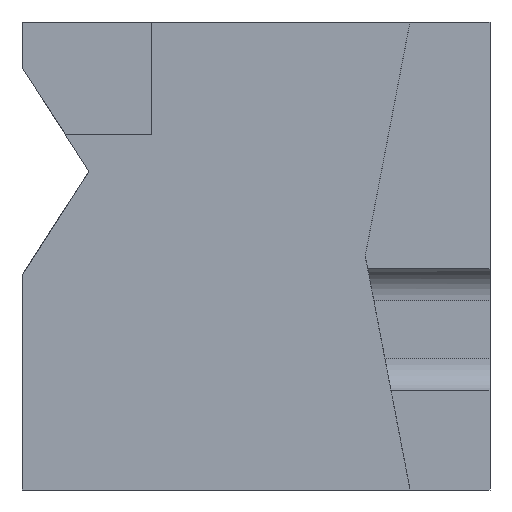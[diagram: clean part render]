
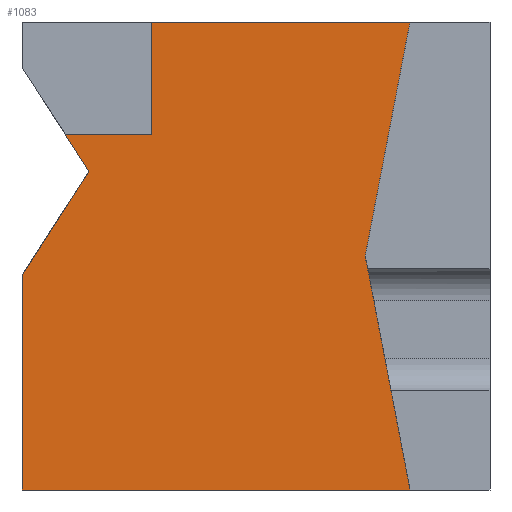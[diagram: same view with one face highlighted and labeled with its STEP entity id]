
A CAD part, front view. The second image highlights one B-rep face of the part: STEP entity #1083.
In plain terms, the highlighted planar face has unit normal (0, -1, 0).
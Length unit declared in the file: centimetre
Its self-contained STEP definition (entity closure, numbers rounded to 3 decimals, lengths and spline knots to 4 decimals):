
#11 = EDGE_CURVE ( 'NONE', #171, #1162, #305, .T. ) ;
#17 = ORIENTED_EDGE ( 'NONE', *, *, #663, .F. ) ;
#18 = VERTEX_POINT ( 'NONE', #581 ) ;
#33 = FACE_OUTER_BOUND ( 'NONE', #104, .T. ) ;
#52 = EDGE_CURVE ( 'NONE', #606, #894, #211, .T. ) ;
#59 = LINE ( 'NONE', #229, #584 ) ;
#64 = CARTESIAN_POINT ( 'NONE',  ( 829.0442, 0., 0. ) ) ;
#88 = ORIENTED_EDGE ( 'NONE', *, *, #52, .F. ) ;
#103 = EDGE_CURVE ( 'NONE', #541, #592, #1066, .T. ) ;
#104 = EDGE_LOOP ( 'NONE', ( #791, #17, #1089, #88, #705, #516, #564, #839, #756 ) ) ;
#105 = DIRECTION ( 'NONE',  ( 0., 1., 0. ) ) ;
#121 = CARTESIAN_POINT ( 'NONE',  ( 0., 0., 1000. ) ) ;
#127 = DIRECTION ( 'NONE',  ( 1., 0., 0. ) ) ;
#131 = CARTESIAN_POINT ( 'NONE',  ( 143.032, 0., 681.042 ) ) ;
#171 = VERTEX_POINT ( 'NONE', #890 ) ;
#202 = EDGE_CURVE ( 'NONE', #894, #1025, #427, .T. ) ;
#203 = VERTEX_POINT ( 'NONE', #64 ) ;
#204 = PLANE ( 'NONE',  #918 ) ;
#211 = LINE ( 'NONE', #574, #1036 ) ;
#229 = CARTESIAN_POINT ( 'NONE',  ( 0., 0., 0. ) ) ;
#251 = CARTESIAN_POINT ( 'NONE',  ( 0., 0., 760.6608 ) ) ;
#305 = LINE ( 'NONE', #121, #588 ) ;
#349 = DIRECTION ( 'NONE',  ( 0., 0., 1. ) ) ;
#378 = CARTESIAN_POINT ( 'NONE',  ( 0., 0., 1000. ) ) ;
#385 = DIRECTION ( 'NONE',  ( -0.54, 0., 0.841 ) ) ;
#390 = EDGE_CURVE ( 'NONE', #592, #203, #747, .T. ) ;
#393 = VECTOR ( 'NONE', #349, 100. ) ;
#394 = CARTESIAN_POINT ( 'NONE',  ( 0., 0., 1000. ) ) ;
#396 = DIRECTION ( 'NONE',  ( 0., 0., -1. ) ) ;
#427 = LINE ( 'NONE', #251, #739 ) ;
#444 = CARTESIAN_POINT ( 'NONE',  ( 276.5074, 0., 760.6608 ) ) ;
#478 = LINE ( 'NONE', #793, #665 ) ;
#497 = DIRECTION ( 'NONE',  ( 1., 0., 0. ) ) ;
#516 = ORIENTED_EDGE ( 'NONE', *, *, #11, .T. ) ;
#527 = VECTOR ( 'NONE', #497, 100. ) ;
#541 = VERTEX_POINT ( 'NONE', #874 ) ;
#547 = EDGE_CURVE ( 'NONE', #18, #541, #1057, .T. ) ;
#564 = ORIENTED_EDGE ( 'NONE', *, *, #571, .T. ) ;
#571 = EDGE_CURVE ( 'NONE', #1162, #203, #59, .T. ) ;
#574 = CARTESIAN_POINT ( 'NONE',  ( 143.032, 0., 681.042 ) ) ;
#581 = CARTESIAN_POINT ( 'NONE',  ( 276.5074, 0., 1000. ) ) ;
#584 = VECTOR ( 'NONE', #127, 100. ) ;
#588 = VECTOR ( 'NONE', #396, 100. ) ;
#592 = VERTEX_POINT ( 'NONE', #1129 ) ;
#606 = VERTEX_POINT ( 'NONE', #131 ) ;
#613 = DIRECTION ( 'NONE',  ( 1., 0., 0. ) ) ;
#621 = CARTESIAN_POINT ( 'NONE',  ( 91.9026, 0., 760.6608 ) ) ;
#663 = EDGE_CURVE ( 'NONE', #1025, #18, #914, .T. ) ;
#665 = VECTOR ( 'NONE', #969, 100. ) ;
#679 = CARTESIAN_POINT ( 'NONE',  ( 0., 0., 0. ) ) ;
#705 = ORIENTED_EDGE ( 'NONE', *, *, #1137, .F. ) ;
#716 = DIRECTION ( 'NONE',  ( -0.188, 0., -0.982 ) ) ;
#739 = VECTOR ( 'NONE', #613, 100. ) ;
#747 = LINE ( 'NONE', #753, #818 ) ;
#753 = CARTESIAN_POINT ( 'NONE',  ( 733.3642, 0., 500. ) ) ;
#756 = ORIENTED_EDGE ( 'NONE', *, *, #103, .F. ) ;
#791 = ORIENTED_EDGE ( 'NONE', *, *, #547, .F. ) ;
#793 = CARTESIAN_POINT ( 'NONE',  ( 0., 0., 458.3121 ) ) ;
#814 = VECTOR ( 'NONE', #716, 100. ) ;
#818 = VECTOR ( 'NONE', #945, 100. ) ;
#839 = ORIENTED_EDGE ( 'NONE', *, *, #390, .F. ) ;
#874 = CARTESIAN_POINT ( 'NONE',  ( 829.0442, 0., 1000. ) ) ;
#877 = CARTESIAN_POINT ( 'NONE',  ( 829.0442, 0., 1000. ) ) ;
#890 = CARTESIAN_POINT ( 'NONE',  ( 0., 0., 458.3121 ) ) ;
#894 = VERTEX_POINT ( 'NONE', #621 ) ;
#914 = LINE ( 'NONE', #444, #393 ) ;
#918 = AXIS2_PLACEMENT_3D ( 'NONE', #378, #105, #1037 ) ;
#945 = DIRECTION ( 'NONE',  ( 0.188, 0., -0.982 ) ) ;
#969 = DIRECTION ( 'NONE',  ( 0.54, 0., 0.841 ) ) ;
#1025 = VERTEX_POINT ( 'NONE', #1040 ) ;
#1036 = VECTOR ( 'NONE', #385, 100. ) ;
#1037 = DIRECTION ( 'NONE',  ( 0., 0., 1. ) ) ;
#1040 = CARTESIAN_POINT ( 'NONE',  ( 276.5074, 0., 760.6608 ) ) ;
#1057 = LINE ( 'NONE', #394, #527 ) ;
#1066 = LINE ( 'NONE', #877, #814 ) ;
#1083 = ADVANCED_FACE ( 'NONE', ( #33 ), #204, .F. ) ;
#1089 = ORIENTED_EDGE ( 'NONE', *, *, #202, .F. ) ;
#1129 = CARTESIAN_POINT ( 'NONE',  ( 733.3642, 0., 500. ) ) ;
#1137 = EDGE_CURVE ( 'NONE', #171, #606, #478, .T. ) ;
#1162 = VERTEX_POINT ( 'NONE', #679 ) ;
